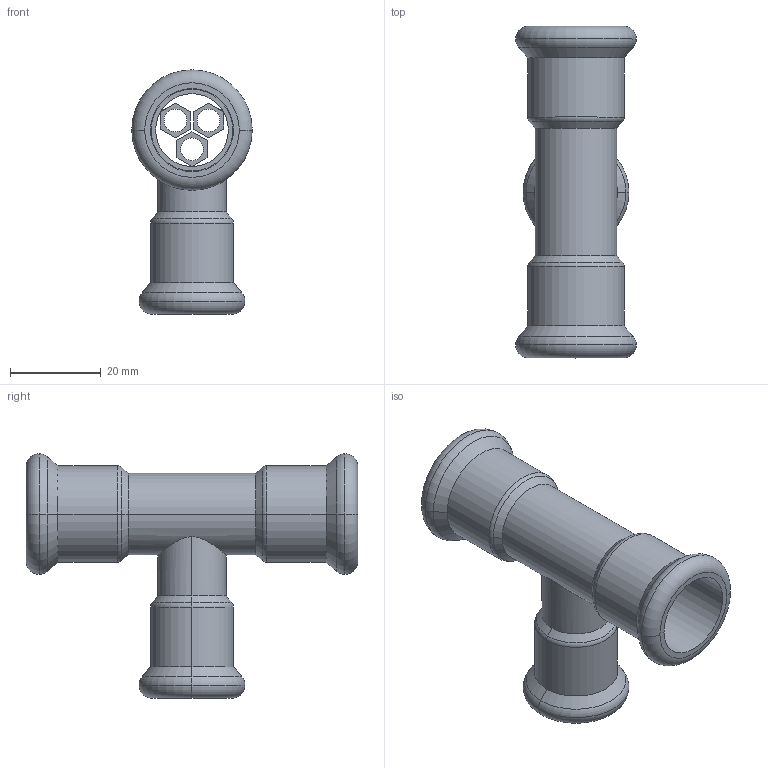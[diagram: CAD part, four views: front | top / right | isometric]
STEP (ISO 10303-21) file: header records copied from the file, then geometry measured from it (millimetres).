
FILE_DESCRIPTION(('OneSpaceDesigner STEP Export'),'2;1');
FILE_NAME('R2715 18x15x18.stp','2010-06-10T 8:54:43',(''),(''),'OneSpace Designer STEP processor for AP214 (Solid Model)','OneSpace Modeling 15.00A 14-Mar-2007 (C) CoCreate Software GmbH','');
FILE_SCHEMA(('AUTOMOTIVE_DESIGN { 1 0 10303 214 1 1 1 1 }'));
Length unit declared in the file: millimetre
Products named in the file (2): R2715_18x15x18
Assembly tree (1 placements, depth 2):
  R2715_18x15x18
    R2715_18x15x18
Bounding box: 26.5 x 73 x 53.75 mm (x, y, z)
Volume: 10922 mm3; surface area: 14071 mm2
Topology: 1 solids, 1 shells, 174 faces, 429 edges, 274 vertices
Faces by surface type: plane 90, cylinder 54, torus 18, cone 12
Entity records: 5701 total; most frequent: CARTESIAN_POINT 1816, ORIENTED_EDGE 858, DIRECTION 707, EDGE_CURVE 429, VERTEX_POINT 274, VECTOR 263, LINE 263, AXIS2_PLACEMENT_3D 222
